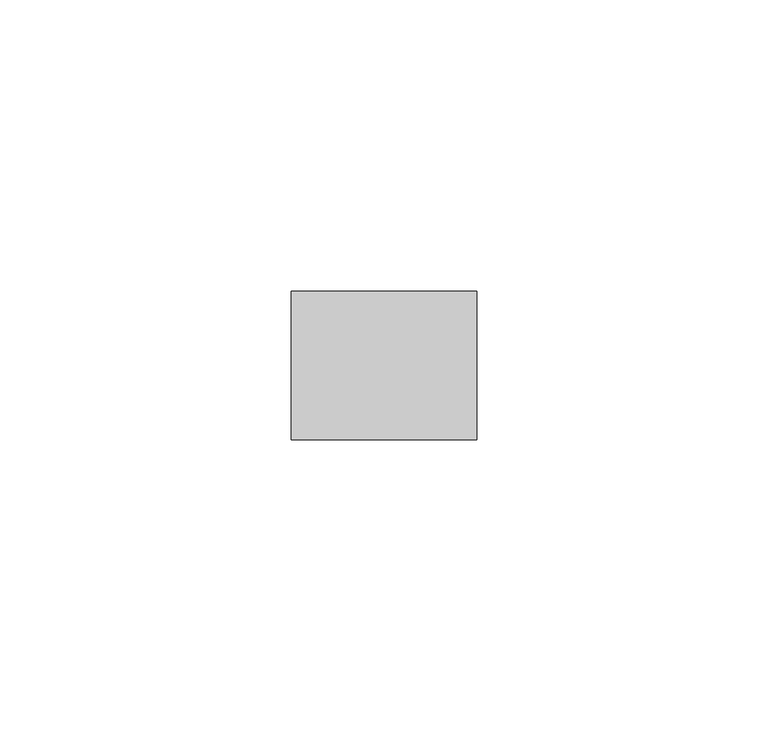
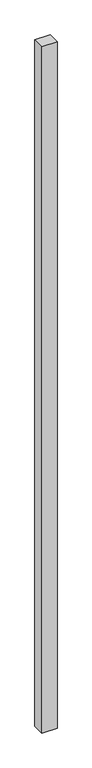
"""IFC4 building model written with IfcOpenShell, lengths in millimetres: proxy geometry, AERO^TABLE 3_ATS2S-4896-REV2-NOPOWER^TROUGH CLEAT BLK10."""

from ifc_helpers import new_model, si_unit, frame, origin, place, context, project, spatial, polyline, outline, extrude, source, transform, mapped, element, save


def generic_models_9c7fe8c6(model_context):
    return source(origin(), model_context, "Body", "SweptSolid", [
        extrude(outline(polyline([(-31.75, 25.4), (0.0, 25.4), (0.0, 0.0), (-31.75, 0.0), (-31.75, 25.4)])), frame((0.0, 0.0, -1524.0), z_axis=(0.0, 0.0, 1.0), x_axis=(1.0, 0.0, 0.0)), (0.0, 0.0, 1.0), 1524.0),
    ])


if __name__ == "__main__":
    model = new_model("IFC4")
    model_context = context("Model", 3, world=origin())
    ifc_project = project(units=[si_unit("LENGTHUNIT", "METRE", prefix="MILLI")], contexts=[model_context])
    site = spatial("IfcSite", under=ifc_project)
    building = spatial("IfcBuilding", under=site)
    placement = place(None, origin())
    generic_models_shape = generic_models_9c7fe8c6(model_context)
    element("IfcBuildingElementProxy", 1, Name="AERO^TABLE 3_ATS2S-4896-REV2-NOPOWER^TROUGH CLEAT BLK10", ObjectType="AERO^TABLE 3_ATS2S-4896-REV2-NOPOWER^TROUGH CLEAT BLK10", at=placement, inside=building, context=model_context, shape_type="MappedRepresentation", body=[
        mapped(generic_models_shape, transform((0.0, 0.0, 0.0), x_axis=(1.0, 0.0, 0.0), y_axis=(0.0, 1.0, 0.0), z_axis=(0.0, 0.0, 1.0))),
    ])
    save(model, "model.ifc")
